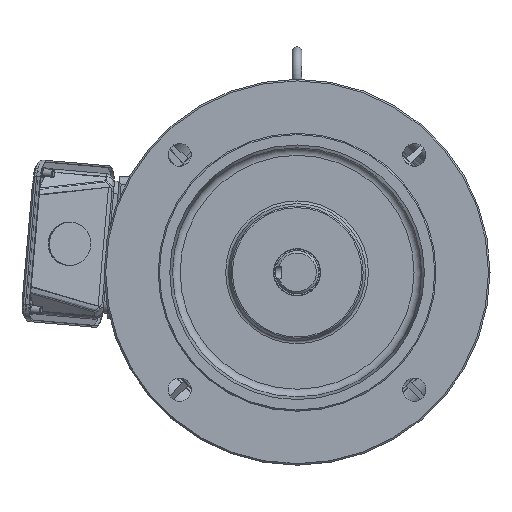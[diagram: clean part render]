
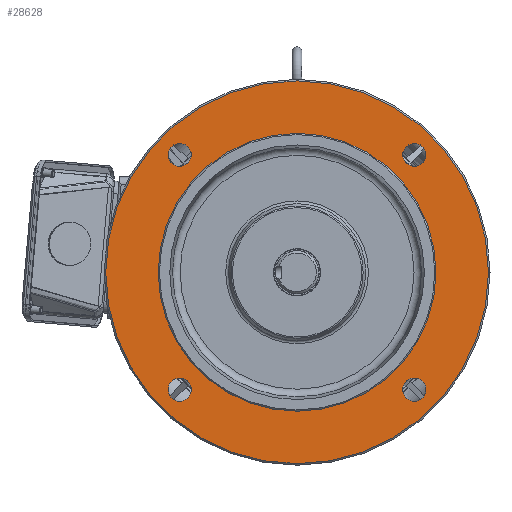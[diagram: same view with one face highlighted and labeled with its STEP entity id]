
A CAD part, front view. The second image highlights one B-rep face of the part: STEP entity #28628.
In plain terms, the highlighted planar face has unit normal (0, -1, 0).
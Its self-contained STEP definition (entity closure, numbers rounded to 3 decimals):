
#961=PLANE('',#30681);
#2471=CIRCLE('',#30680,90.);
#2472=CIRCLE('',#30682,124.);
#2473=CIRCLE('',#30683,7.5);
#2474=CIRCLE('',#30684,7.5);
#2475=CIRCLE('',#30685,7.5);
#2476=CIRCLE('',#30686,7.5);
#5509=ORIENTED_EDGE('',*,*,#12106,.T.);
#5510=ORIENTED_EDGE('',*,*,#12107,.F.);
#5511=ORIENTED_EDGE('',*,*,#12108,.F.);
#5512=ORIENTED_EDGE('',*,*,#12109,.F.);
#5513=ORIENTED_EDGE('',*,*,#12110,.F.);
#5514=ORIENTED_EDGE('',*,*,#12105,.F.);
#12105=EDGE_CURVE('',#15572,#15572,#2471,.T.);
#12106=EDGE_CURVE('',#15573,#15573,#2472,.T.);
#12107=EDGE_CURVE('',#15574,#15574,#2473,.T.);
#12108=EDGE_CURVE('',#15575,#15575,#2474,.T.);
#12109=EDGE_CURVE('',#15576,#15576,#2475,.T.);
#12110=EDGE_CURVE('',#15577,#15577,#2476,.T.);
#15572=VERTEX_POINT('',#46187);
#15573=VERTEX_POINT('',#46190);
#15574=VERTEX_POINT('',#46192);
#15575=VERTEX_POINT('',#46194);
#15576=VERTEX_POINT('',#46196);
#15577=VERTEX_POINT('',#46198);
#20424=EDGE_LOOP('',(#5509));
#20425=EDGE_LOOP('',(#5510));
#20426=EDGE_LOOP('',(#5511));
#20427=EDGE_LOOP('',(#5512));
#20428=EDGE_LOOP('',(#5513));
#20429=EDGE_LOOP('',(#5514));
#22441=FACE_BOUND('',#20424,.T.);
#22442=FACE_BOUND('',#20425,.T.);
#22443=FACE_BOUND('',#20426,.T.);
#22444=FACE_BOUND('',#20427,.T.);
#22445=FACE_BOUND('',#20428,.T.);
#22446=FACE_BOUND('',#20429,.T.);
#28628=ADVANCED_FACE('',(#22441,#22442,#22443,#22444,#22445,#22446),#961,
 .T.);
#30680=AXIS2_PLACEMENT_3D('',#46186,#34848,#34849);
#30681=AXIS2_PLACEMENT_3D('',#46188,#34850,#34851);
#30682=AXIS2_PLACEMENT_3D('',#46189,#34852,#34853);
#30683=AXIS2_PLACEMENT_3D('',#46191,#34854,#34855);
#30684=AXIS2_PLACEMENT_3D('',#46193,#34856,#34857);
#30685=AXIS2_PLACEMENT_3D('',#46195,#34858,#34859);
#30686=AXIS2_PLACEMENT_3D('',#46197,#34860,#34861);
#34848=DIRECTION('',(0.,-1.,0.));
#34849=DIRECTION('',(1.,0.,0.));
#34850=DIRECTION('',(0.,-1.,0.));
#34851=DIRECTION('',(1.,0.,0.));
#34852=DIRECTION('',(0.,-1.,0.));
#34853=DIRECTION('',(1.,0.,0.));
#34854=DIRECTION('',(0.,-1.,0.));
#34855=DIRECTION('',(0.,0.,1.));
#34856=DIRECTION('',(0.,-1.,0.));
#34857=DIRECTION('',(-1.,0.,0.));
#34858=DIRECTION('',(0.,-1.,0.));
#34859=DIRECTION('',(0.,0.,-1.));
#34860=DIRECTION('',(0.,-1.,0.));
#34861=DIRECTION('',(1.,0.,0.));
#46186=CARTESIAN_POINT('',(0.,4.,0.));
#46187=CARTESIAN_POINT('',(90.,4.,0.));
#46188=CARTESIAN_POINT('',(0.,4.,90.));
#46189=CARTESIAN_POINT('',(0.,4.,0.));
#46190=CARTESIAN_POINT('',(124.,4.,0.));
#46191=CARTESIAN_POINT('',(-76.014,4.,-76.014));
#46192=CARTESIAN_POINT('',(-76.014,4.,-68.514));
#46193=CARTESIAN_POINT('',(76.014,4.,-76.014));
#46194=CARTESIAN_POINT('',(68.514,4.,-76.014));
#46195=CARTESIAN_POINT('',(76.014,4.,76.014));
#46196=CARTESIAN_POINT('',(76.014,4.,68.514));
#46197=CARTESIAN_POINT('',(-76.014,4.,76.014));
#46198=CARTESIAN_POINT('',(-68.514,4.,76.014));
